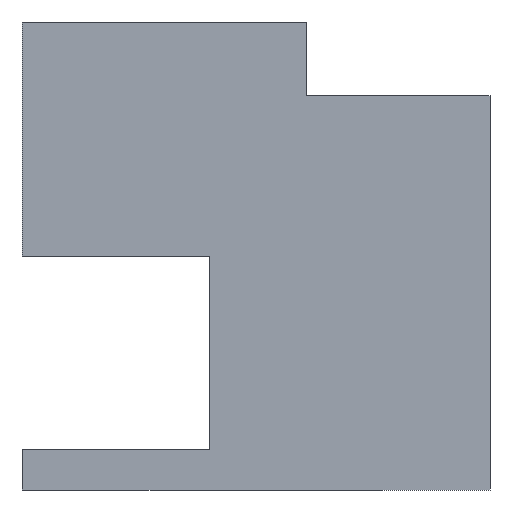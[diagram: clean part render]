
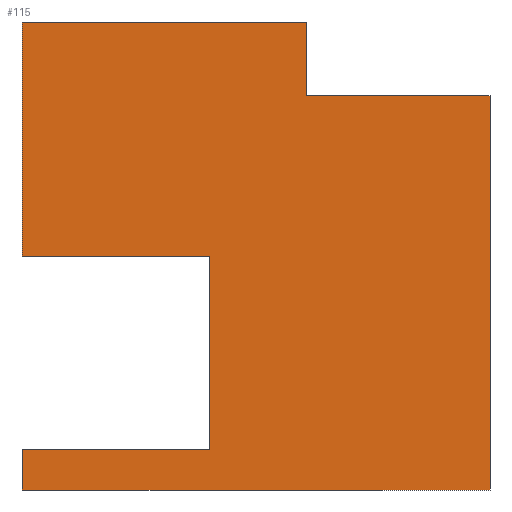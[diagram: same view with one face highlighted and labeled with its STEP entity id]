
A CAD part, left-side view. The second image highlights one B-rep face of the part: STEP entity #115.
In plain terms, the highlighted planar face has unit normal (-1, 0, 0).
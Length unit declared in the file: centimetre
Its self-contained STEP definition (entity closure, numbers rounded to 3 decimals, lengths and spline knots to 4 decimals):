
#9 = VECTOR ( 'NONE', #79, 100. ) ;
#13 = DIRECTION ( 'NONE',  ( 0., -1., 0. ) ) ;
#14 = ORIENTED_EDGE ( 'NONE', *, *, #233, .F. ) ;
#37 = ORIENTED_EDGE ( 'NONE', *, *, #300, .T. ) ;
#39 = DIRECTION ( 'NONE',  ( 0., 0., -1. ) ) ;
#44 = CARTESIAN_POINT ( 'NONE',  ( 0., 1000., 1000. ) ) ;
#78 = LINE ( 'NONE', #429, #388 ) ;
#79 = DIRECTION ( 'NONE',  ( 0., 0., 1. ) ) ;
#80 = CARTESIAN_POINT ( 'NONE',  ( 0., 0., 0. ) ) ;
#97 = EDGE_LOOP ( 'NONE', ( #198, #239, #512, #756, #339, #250, #14, #362, #37, #116 ) ) ;
#103 = EDGE_CURVE ( 'NONE', #324, #651, #558, .T. ) ;
#108 = LINE ( 'NONE', #44, #178 ) ;
#111 = DIRECTION ( 'NONE',  ( 1., 0., 0. ) ) ;
#115 = ADVANCED_FACE ( 'NONE', ( #317 ), #749, .F. ) ;
#116 = ORIENTED_EDGE ( 'NONE', *, *, #197, .T. ) ;
#120 = DIRECTION ( 'NONE',  ( 0., 0., -1. ) ) ;
#125 = DIRECTION ( 'NONE',  ( 0., -1., 0. ) ) ;
#129 = CARTESIAN_POINT ( 'NONE',  ( 0., 1000., 86.3827 ) ) ;
#130 = VERTEX_POINT ( 'NONE', #444 ) ;
#131 = CARTESIAN_POINT ( 'NONE',  ( 0., 392.9049, 842.0324 ) ) ;
#133 = VERTEX_POINT ( 'NONE', #622 ) ;
#145 = LINE ( 'NONE', #769, #252 ) ;
#152 = VERTEX_POINT ( 'NONE', #378 ) ;
#168 = DIRECTION ( 'NONE',  ( 0., -1., 0. ) ) ;
#178 = VECTOR ( 'NONE', #168, 100. ) ;
#187 = CARTESIAN_POINT ( 'NONE',  ( 0., 1000., 1000. ) ) ;
#197 = EDGE_CURVE ( 'NONE', #152, #651, #699, .T. ) ;
#198 = ORIENTED_EDGE ( 'NONE', *, *, #103, .F. ) ;
#233 = EDGE_CURVE ( 'NONE', #133, #346, #396, .T. ) ;
#239 = ORIENTED_EDGE ( 'NONE', *, *, #497, .F. ) ;
#250 = ORIENTED_EDGE ( 'NONE', *, *, #685, .F. ) ;
#252 = VECTOR ( 'NONE', #389, 100. ) ;
#255 = CARTESIAN_POINT ( 'NONE',  ( 0., 599.6928, 86.3827 ) ) ;
#269 = VECTOR ( 'NONE', #120, 100. ) ;
#292 = DIRECTION ( 'NONE',  ( 0., 1., 0. ) ) ;
#300 = EDGE_CURVE ( 'NONE', #533, #152, #790, .T. ) ;
#317 = FACE_OUTER_BOUND ( 'NONE', #97, .T. ) ;
#324 = VERTEX_POINT ( 'NONE', #405 ) ;
#326 = VECTOR ( 'NONE', #13, 100. ) ;
#339 = ORIENTED_EDGE ( 'NONE', *, *, #469, .T. ) ;
#346 = VERTEX_POINT ( 'NONE', #584 ) ;
#362 = ORIENTED_EDGE ( 'NONE', *, *, #436, .F. ) ;
#376 = DIRECTION ( 'NONE',  ( 0., 0., -1. ) ) ;
#378 = CARTESIAN_POINT ( 'NONE',  ( 0., 1000., 0. ) ) ;
#388 = VECTOR ( 'NONE', #292, 100. ) ;
#389 = DIRECTION ( 'NONE',  ( 0., 0., -1. ) ) ;
#396 = LINE ( 'NONE', #649, #9 ) ;
#403 = VERTEX_POINT ( 'NONE', #605 ) ;
#405 = CARTESIAN_POINT ( 'NONE',  ( 0., 0., 842.0324 ) ) ;
#417 = VERTEX_POINT ( 'NONE', #640 ) ;
#429 = CARTESIAN_POINT ( 'NONE',  ( 0., 599.6928, 500. ) ) ;
#436 = EDGE_CURVE ( 'NONE', #533, #133, #696, .T. ) ;
#444 = CARTESIAN_POINT ( 'NONE',  ( 0., 1000., 500. ) ) ;
#453 = CARTESIAN_POINT ( 'NONE',  ( 0., 1000., 0. ) ) ;
#469 = EDGE_CURVE ( 'NONE', #417, #130, #748, .T. ) ;
#475 = CARTESIAN_POINT ( 'NONE',  ( 0., 1000., 1000. ) ) ;
#497 = EDGE_CURVE ( 'NONE', #403, #324, #761, .T. ) ;
#504 = DIRECTION ( 'NONE',  ( 0., 0., -1. ) ) ;
#511 = CARTESIAN_POINT ( 'NONE',  ( 0., 1000., 1000. ) ) ;
#512 = ORIENTED_EDGE ( 'NONE', *, *, #623, .F. ) ;
#528 = VERTEX_POINT ( 'NONE', #573 ) ;
#533 = VERTEX_POINT ( 'NONE', #129 ) ;
#558 = LINE ( 'NONE', #677, #641 ) ;
#573 = CARTESIAN_POINT ( 'NONE',  ( 0., 392.9049, 1000. ) ) ;
#584 = CARTESIAN_POINT ( 'NONE',  ( 0., 599.6928, 500. ) ) ;
#605 = CARTESIAN_POINT ( 'NONE',  ( 0., 392.9049, 842.0324 ) ) ;
#622 = CARTESIAN_POINT ( 'NONE',  ( 0., 599.6928, 86.3827 ) ) ;
#623 = EDGE_CURVE ( 'NONE', #528, #403, #145, .T. ) ;
#640 = CARTESIAN_POINT ( 'NONE',  ( 0., 1000., 1000. ) ) ;
#641 = VECTOR ( 'NONE', #376, 100. ) ;
#649 = CARTESIAN_POINT ( 'NONE',  ( 0., 599.6928, 86.3827 ) ) ;
#651 = VERTEX_POINT ( 'NONE', #80 ) ;
#677 = CARTESIAN_POINT ( 'NONE',  ( 0., 0., 1000. ) ) ;
#685 = EDGE_CURVE ( 'NONE', #346, #130, #78, .T. ) ;
#687 = VECTOR ( 'NONE', #767, 100. ) ;
#692 = EDGE_CURVE ( 'NONE', #417, #528, #108, .T. ) ;
#696 = LINE ( 'NONE', #255, #326 ) ;
#699 = LINE ( 'NONE', #453, #687 ) ;
#748 = LINE ( 'NONE', #511, #269 ) ;
#749 = PLANE ( 'NONE',  #807 ) ;
#753 = VECTOR ( 'NONE', #125, 100. ) ;
#756 = ORIENTED_EDGE ( 'NONE', *, *, #692, .F. ) ;
#761 = LINE ( 'NONE', #131, #753 ) ;
#767 = DIRECTION ( 'NONE',  ( 0., -1., 0. ) ) ;
#769 = CARTESIAN_POINT ( 'NONE',  ( 0., 392.9049, 842.0324 ) ) ;
#790 = LINE ( 'NONE', #475, #795 ) ;
#795 = VECTOR ( 'NONE', #39, 100. ) ;
#807 = AXIS2_PLACEMENT_3D ( 'NONE', #187, #111, #504 ) ;
